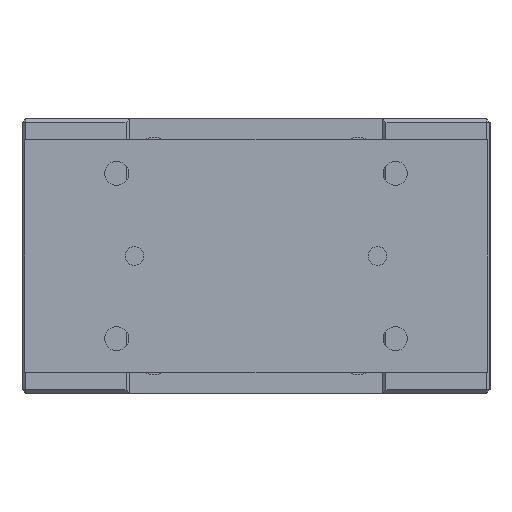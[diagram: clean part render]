
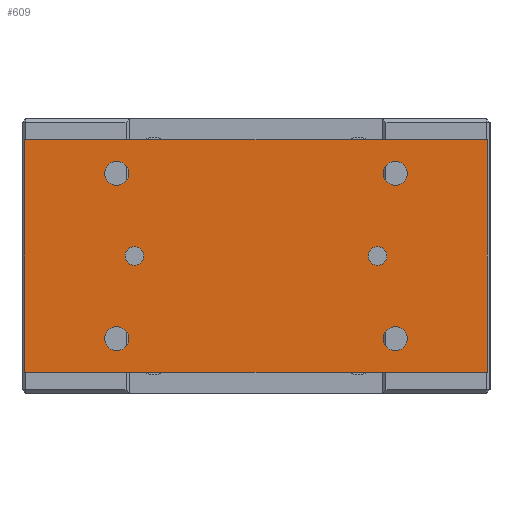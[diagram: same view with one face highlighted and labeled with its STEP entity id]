
A CAD part, left-side view. The second image highlights one B-rep face of the part: STEP entity #609.
In plain terms, the highlighted planar face has unit normal (-1, 0, 0).
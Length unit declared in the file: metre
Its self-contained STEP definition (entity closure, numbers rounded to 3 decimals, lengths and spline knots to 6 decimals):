
#609 = ADVANCED_FACE( '', ( #1382, #1383, #1384, #1385, #1386, #1387, #1388 ), #1389, .T. );
#1382 = FACE_BOUND( '', #2272, .T. );
#1383 = FACE_BOUND( '', #2273, .T. );
#1384 = FACE_BOUND( '', #2274, .T. );
#1385 = FACE_BOUND( '', #2275, .T. );
#1386 = FACE_BOUND( '', #2276, .T. );
#1387 = FACE_BOUND( '', #2277, .T. );
#1388 = FACE_OUTER_BOUND( '', #2278, .T. );
#1389 = PLANE( '', #2279 );
#2272 = EDGE_LOOP( '', ( #3779 ) );
#2273 = EDGE_LOOP( '', ( #3780 ) );
#2274 = EDGE_LOOP( '', ( #3781 ) );
#2275 = EDGE_LOOP( '', ( #3782 ) );
#2276 = EDGE_LOOP( '', ( #3783 ) );
#2277 = EDGE_LOOP( '', ( #3784 ) );
#2278 = EDGE_LOOP( '', ( #3785, #3786, #3787, #3788 ) );
#2279 = AXIS2_PLACEMENT_3D( '', #3789, #3790, #3791 );
#3779 = ORIENTED_EDGE( '', *, *, #4666, .F. );
#3780 = ORIENTED_EDGE( '', *, *, #4803, .T. );
#3781 = ORIENTED_EDGE( '', *, *, #4405, .F. );
#3782 = ORIENTED_EDGE( '', *, *, #4655, .F. );
#3783 = ORIENTED_EDGE( '', *, *, #4804, .F. );
#3784 = ORIENTED_EDGE( '', *, *, #4805, .F. );
#3785 = ORIENTED_EDGE( '', *, *, #4500, .T. );
#3786 = ORIENTED_EDGE( '', *, *, #4702, .T. );
#3787 = ORIENTED_EDGE( '', *, *, #4308, .T. );
#3788 = ORIENTED_EDGE( '', *, *, #4518, .T. );
#3789 = CARTESIAN_POINT( '', ( -0.143, -0.1245, -0.0115 ) );
#3790 = DIRECTION( '', ( -1., 0., 0. ) );
#3791 = DIRECTION( '', ( 0., 0., 1. ) );
#4308 = EDGE_CURVE( '', #4965, #4963, #4966, .T. );
#4405 = EDGE_CURVE( '', #5133, #5133, #5134, .T. );
#4500 = EDGE_CURVE( '', #5285, #5283, #5286, .T. );
#4518 = EDGE_CURVE( '', #4963, #5285, #5312, .T. );
#4655 = EDGE_CURVE( '', #5515, #5515, #5516, .T. );
#4666 = EDGE_CURVE( '', #5530, #5530, #5531, .T. );
#4702 = EDGE_CURVE( '', #5283, #4965, #5577, .T. );
#4803 = EDGE_CURVE( '', #5711, #5711, #5712, .T. );
#4804 = EDGE_CURVE( '', #5713, #5713, #5714, .T. );
#4805 = EDGE_CURVE( '', #5715, #5715, #5716, .T. );
#4963 = VERTEX_POINT( '', #5896 );
#4965 = VERTEX_POINT( '', #5899 );
#4966 = LINE( '', #5900, #5901 );
#5133 = VERTEX_POINT( '', #6188 );
#5134 = CIRCLE( '', #6189, 0.0065 );
#5283 = VERTEX_POINT( '', #6382 );
#5285 = VERTEX_POINT( '', #6385 );
#5286 = LINE( '', #6386, #6387 );
#5312 = LINE( '', #6457, #6458 );
#5515 = VERTEX_POINT( '', #6779 );
#5516 = CIRCLE( '', #6780, 0.0065 );
#5530 = VERTEX_POINT( '', #6798 );
#5531 = CIRCLE( '', #6799, 0.005 );
#5577 = LINE( '', #6860, #6861 );
#5711 = VERTEX_POINT( '', #7096 );
#5712 = CIRCLE( '', #7097, 0.005 );
#5713 = VERTEX_POINT( '', #7098 );
#5714 = CIRCLE( '', #7099, 0.0065 );
#5715 = VERTEX_POINT( '', #7100 );
#5716 = CIRCLE( '', #7101, 0.0065 );
#5896 = CARTESIAN_POINT( '', ( -0.143, 0.1245, -0.1365 ) );
#5899 = CARTESIAN_POINT( '', ( -0.143, 0.1245, -0.0115 ) );
#5900 = CARTESIAN_POINT( '', ( -0.143, 0.1245, -0.0115 ) );
#5901 = VECTOR( '', #7328, 1. );
#6188 = CARTESIAN_POINT( '', ( -0.143, -0.075, -0.112 ) );
#6189 = AXIS2_PLACEMENT_3D( '', #7437, #7438, #7439 );
#6382 = CARTESIAN_POINT( '', ( -0.143, -0.1245, -0.0115 ) );
#6385 = CARTESIAN_POINT( '', ( -0.143, -0.1245, -0.1365 ) );
#6386 = CARTESIAN_POINT( '', ( -0.143, -0.1245, -0.1365 ) );
#6387 = VECTOR( '', #7557, 1. );
#6457 = CARTESIAN_POINT( '', ( -0.143, 0.1245, -0.1365 ) );
#6458 = VECTOR( '', #7569, 1. );
#6779 = CARTESIAN_POINT( '', ( -0.143, 0.075, -0.112 ) );
#6780 = AXIS2_PLACEMENT_3D( '', #7727, #7728, #7729 );
#6798 = CARTESIAN_POINT( '', ( -0.143, -0.0705, -0.074 ) );
#6799 = AXIS2_PLACEMENT_3D( '', #7740, #7741, #7742 );
#6860 = CARTESIAN_POINT( '', ( -0.143, -0.1245, -0.0115 ) );
#6861 = VECTOR( '', #7773, 1. );
#7096 = CARTESIAN_POINT( '', ( -0.143, 0.0705, -0.074 ) );
#7097 = AXIS2_PLACEMENT_3D( '', #7863, #7864, #7865 );
#7098 = CARTESIAN_POINT( '', ( -0.143, -0.075, -0.023 ) );
#7099 = AXIS2_PLACEMENT_3D( '', #7866, #7867, #7868 );
#7100 = CARTESIAN_POINT( '', ( -0.143, 0.075, -0.023 ) );
#7101 = AXIS2_PLACEMENT_3D( '', #7869, #7870, #7871 );
#7328 = DIRECTION( '', ( 0., 0., -1. ) );
#7437 = CARTESIAN_POINT( '', ( -0.143, -0.075, -0.1185 ) );
#7438 = DIRECTION( '', ( -1., 0., 0. ) );
#7439 = DIRECTION( '', ( 0., 0., 1. ) );
#7557 = DIRECTION( '', ( 0., 0., 1. ) );
#7569 = DIRECTION( '', ( 0., -1., 0. ) );
#7727 = CARTESIAN_POINT( '', ( -0.143, 0.075, -0.1185 ) );
#7728 = DIRECTION( '', ( -1., 0., 0. ) );
#7729 = DIRECTION( '', ( 0., 0., 1. ) );
#7740 = CARTESIAN_POINT( '', ( -0.143, -0.0655, -0.074 ) );
#7741 = DIRECTION( '', ( -1., 0., 0. ) );
#7742 = DIRECTION( '', ( 0., -1., 0. ) );
#7773 = DIRECTION( '', ( 0., 1., 0. ) );
#7863 = CARTESIAN_POINT( '', ( -0.143, 0.0655, -0.074 ) );
#7864 = DIRECTION( '', ( 1., 0., 0. ) );
#7865 = DIRECTION( '', ( 0., 1., 0. ) );
#7866 = CARTESIAN_POINT( '', ( -0.143, -0.075, -0.0295 ) );
#7867 = DIRECTION( '', ( -1., 0., 0. ) );
#7868 = DIRECTION( '', ( 0., 0., 1. ) );
#7869 = CARTESIAN_POINT( '', ( -0.143, 0.075, -0.0295 ) );
#7870 = DIRECTION( '', ( -1., 0., 0. ) );
#7871 = DIRECTION( '', ( 0., 0., 1. ) );
